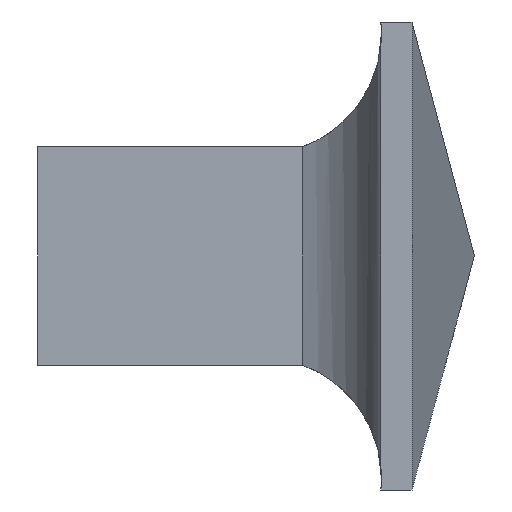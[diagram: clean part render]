
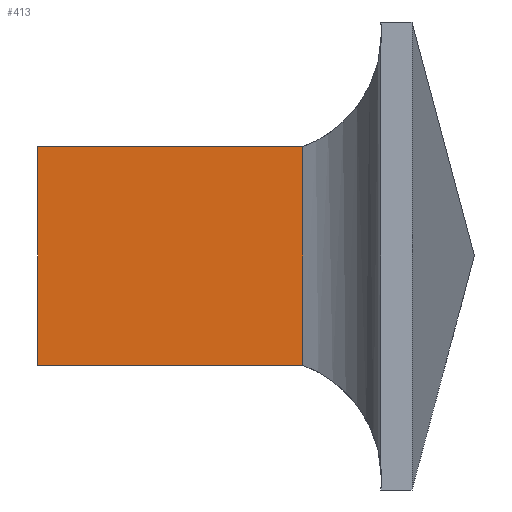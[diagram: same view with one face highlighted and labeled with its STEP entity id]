
A CAD part, left-side view. The second image highlights one B-rep face of the part: STEP entity #413.
In plain terms, the highlighted planar face has unit normal (-1, 0, 0).
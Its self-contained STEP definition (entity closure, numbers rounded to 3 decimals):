
#163 = VERTEX_POINT( '', #445 );
#175 = EDGE_CURVE( '', #219, #411, #458, .T. );
#219 = VERTEX_POINT( '', #509 );
#227 = EDGE_CURVE( '', #401, #163, #517, .T. );
#323 = EDGE_CURVE( '', #219, #163, #626, .T. );
#363 = EDGE_CURVE( '', #401, #411, #668, .T. );
#401 = VERTEX_POINT( '', #711 );
#411 = VERTEX_POINT( '', #722 );
#413 = ADVANCED_FACE( '', ( #724 ), #725, .F. );
#445 = CARTESIAN_POINT( '', ( -8.5, -17., -7. ) );
#458 = LINE( '', #769, #770 );
#509 = CARTESIAN_POINT( '', ( -8.5, 0., -7. ) );
#517 = LINE( '', #846, #847 );
#626 = LINE( '', #990, #991 );
#668 = LINE( '', #1048, #1049 );
#711 = CARTESIAN_POINT( '', ( -8.5, -17., 7. ) );
#722 = CARTESIAN_POINT( '', ( -8.5, 0., 7. ) );
#724 = FACE_OUTER_BOUND( '', #1124, .T. );
#725 = PLANE( '', #1125 );
#769 = CARTESIAN_POINT( '', ( -8.5, 0., 15. ) );
#770 = VECTOR( '', #1155, 1. );
#846 = CARTESIAN_POINT( '', ( -8.5, -17., 15. ) );
#847 = VECTOR( '', #1235, 1. );
#990 = CARTESIAN_POINT( '', ( -8.5, -8.5, -7. ) );
#991 = VECTOR( '', #1392, 1. );
#1048 = CARTESIAN_POINT( '', ( -8.5, -17., 7. ) );
#1049 = VECTOR( '', #1428, 1. );
#1124 = EDGE_LOOP( '', ( #1500, #1501, #1502, #1503 ) );
#1125 = AXIS2_PLACEMENT_3D( '', #1504, #1505, #1506 );
#1155 = DIRECTION( '', ( 0., 0., 1. ) );
#1235 = DIRECTION( '', ( 0., 0., -1. ) );
#1392 = DIRECTION( '', ( 0., -1., 0. ) );
#1428 = DIRECTION( '', ( 0., 1., 0. ) );
#1500 = ORIENTED_EDGE( '', *, *, #323, .T. );
#1501 = ORIENTED_EDGE( '', *, *, #227, .F. );
#1502 = ORIENTED_EDGE( '', *, *, #363, .T. );
#1503 = ORIENTED_EDGE( '', *, *, #175, .F. );
#1504 = CARTESIAN_POINT( '', ( -8.5, -17., 15. ) );
#1505 = DIRECTION( '', ( 1., 0., 0. ) );
#1506 = DIRECTION( '', ( 0., -1., 0. ) );
